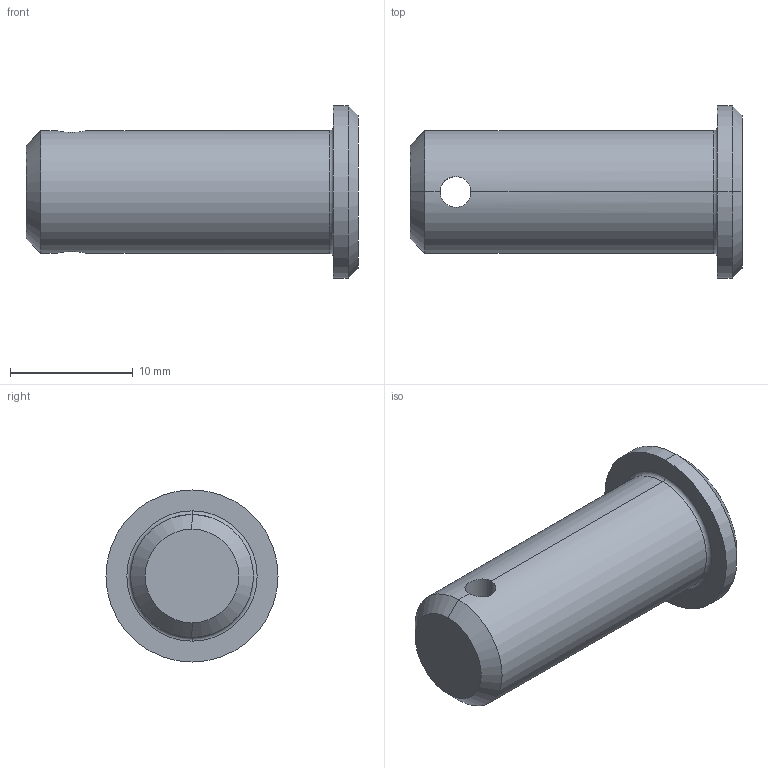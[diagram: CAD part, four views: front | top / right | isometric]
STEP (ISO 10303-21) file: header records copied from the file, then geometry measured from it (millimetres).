
FILE_DESCRIPTION (( 'STEP AP203' ), '1' );
FILE_NAME ('Wiberger-sms2360_10x25.step', '2012-10-09T08:56:49', ( 'Magnus' ), ( 'Wiberger' ), 'SwSTEP 2.0', 'SolidWorks 2011', '' );
FILE_SCHEMA (( 'CONFIG_CONTROL_DESIGN' ));
Length unit declared in the file: millimetre
Products named in the file (1): Wiberger-sms2360_10x25
Bounding box: 27 x 14 x 14 mm (x, y, z)
Volume: 2188.9 mm3; surface area: 1199.2 mm2
Topology: 1 solids, 1 shells, 15 faces, 32 edges, 18 vertices
Faces by surface type: cylinder 6, cone 4, plane 3, torus 2
Entity records: 555 total; most frequent: CARTESIAN_POINT 146, DIRECTION 76, ORIENTED_EDGE 64, EDGE_CURVE 32, AXIS2_PLACEMENT_3D 32, VERTEX_POINT 18, EDGE_LOOP 16, CIRCLE 16
